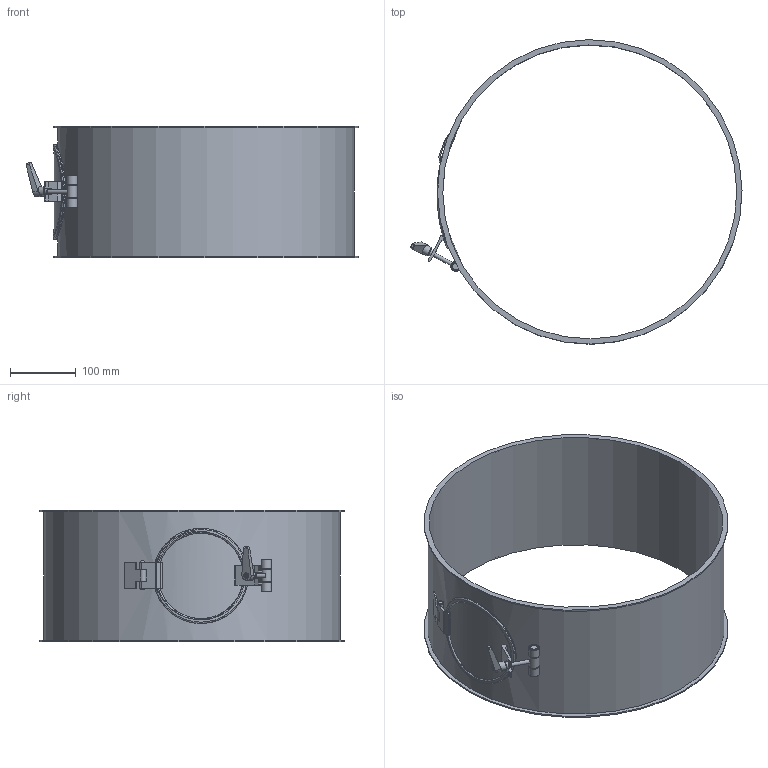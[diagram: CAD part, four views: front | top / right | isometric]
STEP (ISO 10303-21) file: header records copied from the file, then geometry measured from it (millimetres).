
FILE_DESCRIPTION((''),'2;1');
FILE_NAME('U:\Wolfgang\Marcel-3D\fertig\Kapitel 4\4521043.stp','2011-04-21T08:30:51',('TK1'),(''),'Autodesk Inventor 2010','Autodesk Inventor 2010','');
FILE_SCHEMA(('AUTOMOTIVE_DESIGN { 1 0 10303 214 1 1 1 1 }'));
Length unit declared in the file: millimetre
Products named in the file (13): 4521043 (Detailgenauigkeit1); 4521043-1; GelenkDeckel45b; GelenkDeckel1c; Deckel452; Deckel45b; GelenkDeckel35a; dichtung45; Halterung Deckel45; Verschluss; Verschluss1; Verschluss2; Verstellbarer Klemmhebel GN 101-14-M6-SW
Assembly tree (13 placements, depth 3):
  4521043 (Detailgenauigkeit1)
    4521043-1
    GelenkDeckel45b
    GelenkDeckel1c
    Deckel452
      Deckel45b
      GelenkDeckel35a
      dichtung45
      Halterung Deckel45
    Verschluss
      Verschluss1  x2
      Verschluss2
    Verstellbarer Klemmhebel GN 101-14-M6-SW
Bounding box: 506.02 x 463.98 x 200 mm (x, y, z)
Volume: 642532.7 mm3; surface area: 644333 mm2
Topology: 11 solids, 11 shells, 143 faces, 328 edges, 215 vertices
Faces by surface type: plane 67, cylinder 47, cone 18, torus 5, bspline 4, sphere 2
Full cylindrical faces by diameter (mm): 4.8 x1, 6 x5, 8 x1, 10 x3, 11 x2, 14 x1, 15 x1, 16 x2, 115 x1, 130 x1, 135 x1, 145 x1, 448 x1, 452 x1, 464 x2
Entity records: 5656 total; most frequent: CARTESIAN_POINT 2388, DIRECTION 632, ORIENTED_EDGE 532, EDGE_CURVE 266, AXIS2_PLACEMENT_3D 247, VERTEX_POINT 195, EDGE_LOOP 193, VECTOR 138
